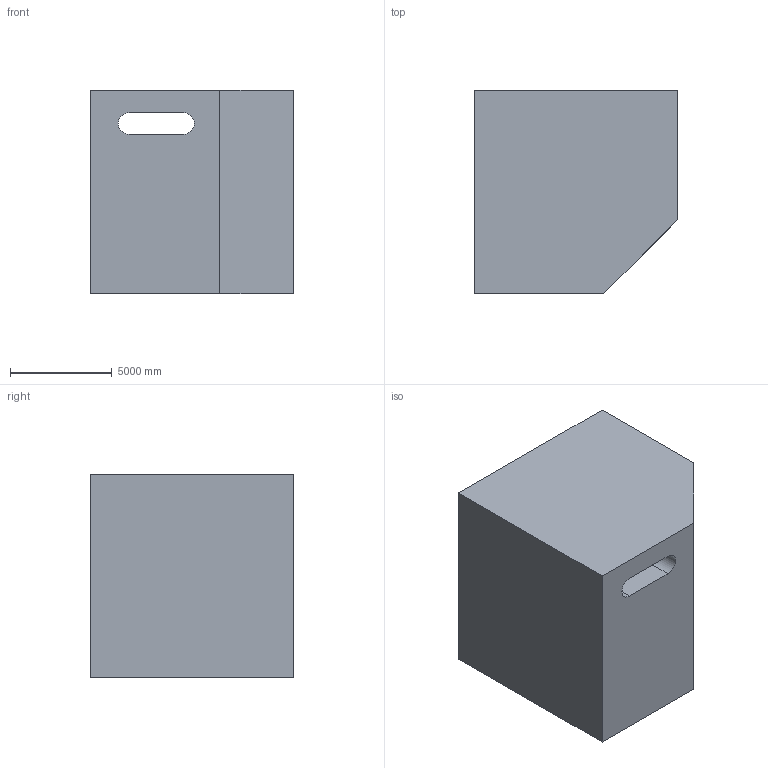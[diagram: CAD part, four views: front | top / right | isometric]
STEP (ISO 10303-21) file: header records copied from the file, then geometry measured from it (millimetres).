
FILE_DESCRIPTION (( 'STEP AP203' ), '1' );
FILE_NAME ('11.STEP', '2022-09-01T11:35:53', ( 'user' ), ( '' ), 'SwSTEP 2.0', 'SolidWorks 2021', '' );
FILE_SCHEMA (( 'CONFIG_CONTROL_DESIGN' ));
Length unit declared in the file: centimetre
Products named in the file (1): 11
Bounding box: 10000 x 10000 x 10000 mm (x, y, z)
Volume: 896689993296.7 mm3; surface area: 644927709.9 mm2
Topology: 1 solids, 1 shells, 11 faces, 27 edges, 18 vertices
Faces by surface type: plane 9, cylinder 2
Entity records: 406 total; most frequent: CARTESIAN_POINT 57, DIRECTION 55, ORIENTED_EDGE 54, EDGE_CURVE 27, LINE 23, VECTOR 23, VERTEX_POINT 18, AXIS2_PLACEMENT_3D 16
